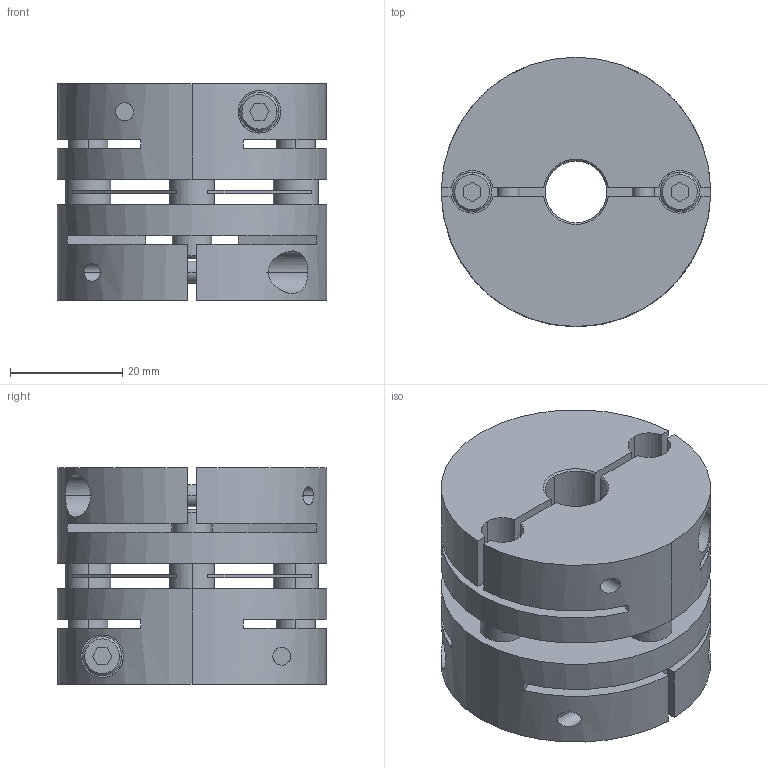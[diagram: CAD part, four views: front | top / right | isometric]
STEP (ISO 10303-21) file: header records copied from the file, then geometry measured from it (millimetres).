
FILE_DESCRIPTION((''),'2;1');
FILE_NAME('LAS-48C-11×19.stp','2015-10-14T15:42:37',(''),(''),'AutoCAD STEP 2000i','AutoCAD 2000i',', , ');
FILE_SCHEMA(('CONFIG_CONTROL_DESIGN'));
Length unit declared in the file: millimetre
Products named in the file (6): LAS-48C-12×19; 忣兜1; LA-4802-D19; LA-4802-D12-1; LA-4802-D12; LAS48-ITA
Assembly tree (5 placements, depth 2):
  LAS-48C-12×19
    忣兜1
    LA-4802-D19
    LA-4802-D12-1
    LA-4802-D12
    LAS48-ITA
Bounding box: 48 x 48 x 38.6 mm (x, y, z)
Volume: 49642.8 mm3; surface area: 22299.1 mm2
Topology: 1 solids, 1 shells, 224 faces, 600 edges, 392 vertices
Faces by surface type: plane 112, cylinder 84, cone 28
Entity records: 7841 total; most frequent: CARTESIAN_POINT 1878, DIRECTION 1256, ORIENTED_EDGE 1200, EDGE_CURVE 600, AXIS2_PLACEMENT_3D 458, VERTEX_POINT 392, VECTOR 340, LINE 340
